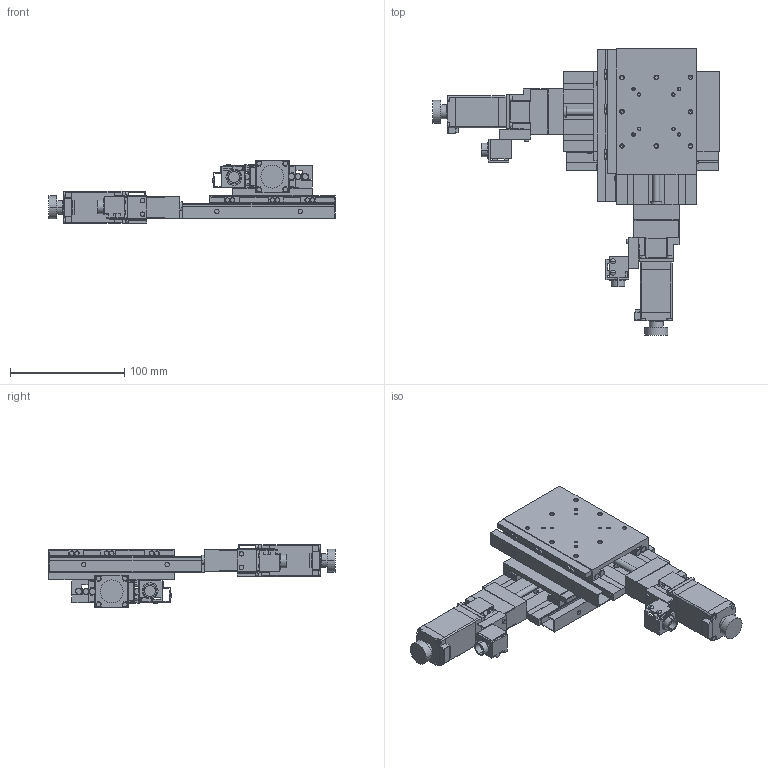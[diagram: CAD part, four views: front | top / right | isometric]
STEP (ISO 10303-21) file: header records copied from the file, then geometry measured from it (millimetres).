
FILE_DESCRIPTION(('STEP AP203'),'1');
FILE_NAME('C:/3D-Trans/3D_PMG750M-L□-D4+240122.step','2024-03-14T04:41:20',(' '),(' '),'Spatial InterOp 3D',' ',' ');
FILE_SCHEMA(('CONFIG_CONTROL_DESIGN'));
Length unit declared in the file: millimetre
Products named in the file (13): 1; 2; 3; 4; 5; 6; 7; 8; 9; 10; 11; 12; 13
Bounding box: 250.5 x 250.5 x 55 mm (x, y, z)
Volume: 450113.8 mm3; surface area: 201974.5 mm2
Topology: 13 solids, 14 shells, 1542 faces, 3950 edges, 2508 vertices
Faces by surface type: plane 902, cylinder 472, cone 160, sphere 8
Entity records: 47316 total; most frequent: CARTESIAN_POINT 8341, DIRECTION 8216, ORIENTED_EDGE 7804, EDGE_CURVE 3902, AXIS2_PLACEMENT_3D 2775, LINE 2666, VECTOR 2666, VERTEX_POINT 2508
